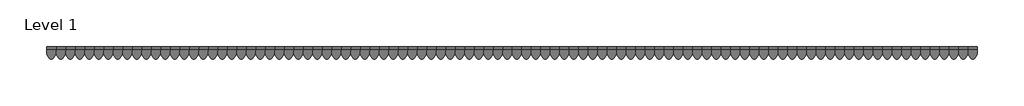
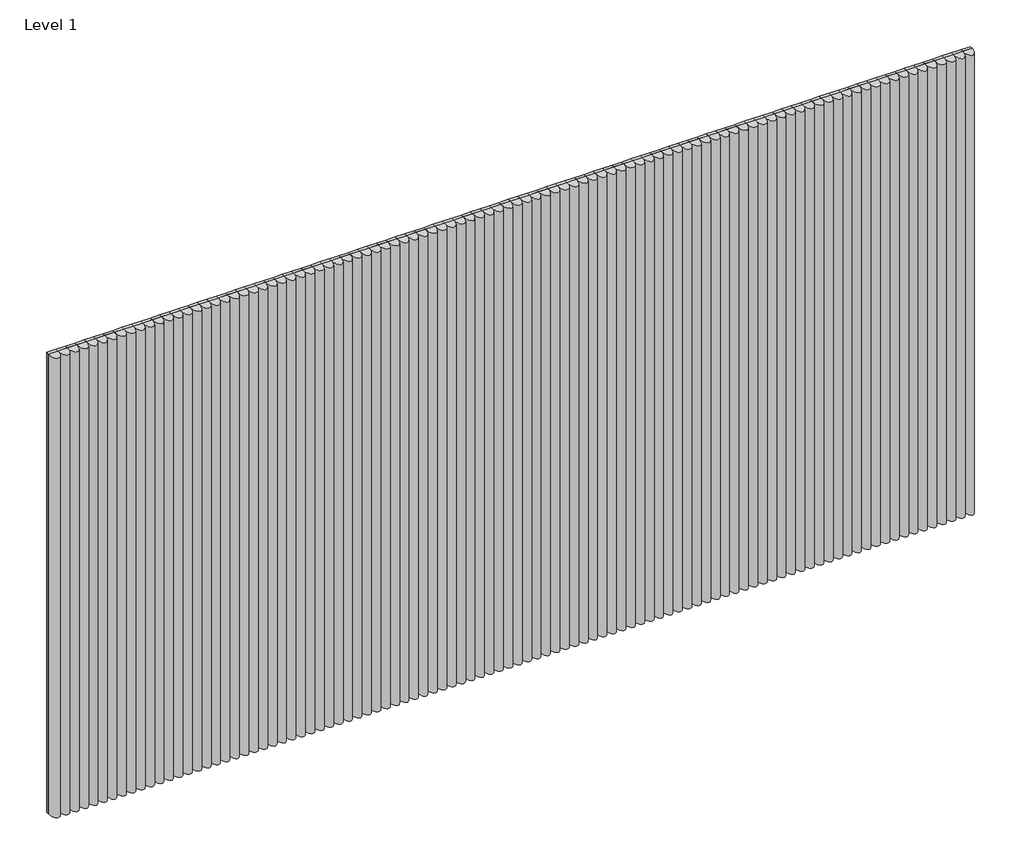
# One storey: 98 proxies.
"""IFC4 building model written with IfcOpenShell, lengths in millimetres."""

import ifcopenshell
import ifcopenshell.guid

model = None  # the IFC model being written
_history = None  # IfcOwnerHistory: only IFC2X3 demands one
_inside = {}  # id of a spatial element -> (the spatial element, [elements in it])
_under = {}  # id of a project, library or spatial element -> (it, [spatial elements below it])
_declared = {}  # id of a project -> (the project, [libraries it declares])
_typed = {}  # id of a type object -> (the type object, [elements of that type])
_made_of = {}  # id of a material, layer set ... -> (it, [elements and type objects made of it])


def new_model(schema):
    """Start an empty IFC model of exactly this schema.

    Asked for "IFC4X3", IfcOpenShell would pick the latest addendum, in which some entities
    have other attributes; the version numbers below select the first issue.
    IFC2X3 requires an IfcOwnerHistory on every rooted entity: one is made here for all.
    """
    global model, _history
    if schema == "IFC4X3":
        model = ifcopenshell.file(schema_version=(4, 3, 0, 0))
    else:
        model = ifcopenshell.file(schema=schema)
    _inside.clear()
    _under.clear()
    _declared.clear()
    _typed.clear()
    _made_of.clear()
    _history = None
    if model.schema == "IFC2X3":
        org = make("IfcOrganization", Name="unknown")
        user = make(
            "IfcPersonAndOrganization",
            ThePerson=make("IfcPerson", FamilyName="unknown"),
            TheOrganization=org,
        )
        app = make(
            "IfcApplication",
            ApplicationDeveloper=org,
            Version="unknown",
            ApplicationFullName="unknown",
            ApplicationIdentifier="unknown",
        )
        _history = make(
            "IfcOwnerHistory",
            OwningUser=user,
            OwningApplication=app,
            ChangeAction="ADDED",
            CreationDate=0,
        )
    return model


def make(cls, **values):
    """One entity of the class cls with the attributes given. An attribute that is None is left unset."""
    return model.create_entity(
        cls, **{name: value for name, value in values.items() if value is not None}
    )


def rooted(cls, **values):
    """An entity with a GlobalId (a new one), such as an element, a storey or a relation."""
    return make(cls, GlobalId=ifcopenshell.guid.new(), OwnerHistory=_history, **values)


def si_unit(unit_type, name, prefix=None):
    """IfcSIUnit, for example si_unit("LENGTHUNIT", "METRE", prefix="MILLI")."""
    return make("IfcSIUnit", UnitType=unit_type, Prefix=prefix, Name=name)


def assignment(units):
    """IfcUnitAssignment: the units of a project."""
    return None if units is None else make("IfcUnitAssignment", Units=units)


def point(xyz):
    """IfcCartesianPoint."""
    return None if xyz is None else make("IfcCartesianPoint", Coordinates=xyz)


def direction(xyz):
    """IfcDirection."""
    return None if xyz is None else make("IfcDirection", DirectionRatios=xyz)


def frame(location, z_axis=None, x_axis=None):
    """IfcAxis2Placement3D, a coordinate frame: its origin and axes. An axis left out is left unset."""
    return make(
        "IfcAxis2Placement3D",
        Location=point(location),
        Axis=direction(z_axis),
        RefDirection=direction(x_axis),
    )


def origin():
    """The frame at (0, 0, 0) with its axes left unset."""
    return frame((0.0, 0.0, 0.0))


def origin_with_axes():
    """The frame at (0, 0, 0) with the z axis (0, 0, 1) and the x axis (1, 0, 0) written out."""
    return frame((0.0, 0.0, 0.0), z_axis=(0.0, 0.0, 1.0), x_axis=(1.0, 0.0, 0.0))


def place(relative_to, where):
    """IfcLocalPlacement: puts the frame where relative to a parent placement (None: the world)."""
    return make(
        "IfcLocalPlacement", PlacementRelTo=relative_to, RelativePlacement=where
    )


def context(
    kind, dimensions, precision=None, world=None, true_north=None, identifier=None
):
    """IfcGeometricRepresentationContext, for example the 3D "Model" context."""
    return make(
        "IfcGeometricRepresentationContext",
        ContextIdentifier=identifier,
        ContextType=kind,
        CoordinateSpaceDimension=dimensions,
        Precision=precision,
        WorldCoordinateSystem=world,
        TrueNorth=true_north,
    )


def project(units=None, contexts=None):
    """IfcProject with its units and contexts."""
    return rooted(
        "IfcProject",
        Name="project",
        RepresentationContexts=contexts,
        UnitsInContext=assignment(units),
    )


def spatial(cls, under=None, at=None, **own):
    """A site, building, storey or space (cls), placed at a placement, below another one or the project."""
    s = rooted(cls, ObjectPlacement=at, **own)
    if under is not None:
        _under.setdefault(under.id(), (under, []))[1].append(s)
    return s


def polyline(points):
    """IfcPolyline through the points."""
    return make("IfcPolyline", Points=[point(p) for p in points])


def ellipse_curve(where, semi_axis1, semi_axis2):
    """IfcEllipse in the frame where."""
    return make(
        "IfcEllipse", Position=where, SemiAxis1=semi_axis1, SemiAxis2=semi_axis2
    )


def trimmed(basis, trim1, trim2, sense, master):
    """IfcTrimmedCurve: the piece of a basis curve between two trims."""
    return make(
        "IfcTrimmedCurve",
        BasisCurve=basis,
        Trim1=trim1,
        Trim2=trim2,
        SenseAgreement=sense,
        MasterRepresentation=master,
    )


def outline(outer, holes=None, kind="AREA"):
    """IfcArbitraryClosedProfileDef: a profile drawn as a closed curve; with holes, ...WithVoids."""
    if holes is None:
        return make("IfcArbitraryClosedProfileDef", ProfileType=kind, OuterCurve=outer)
    return make(
        "IfcArbitraryProfileDefWithVoids",
        ProfileType=kind,
        OuterCurve=outer,
        InnerCurves=holes,
    )


def extrude(swept, where, along, depth):
    """IfcExtrudedAreaSolid: the profile swept, set in the frame where, extruded along a direction by depth."""
    return make(
        "IfcExtrudedAreaSolid",
        SweptArea=swept,
        Position=where,
        ExtrudedDirection=direction(along),
        Depth=depth,
    )


def shape(context_of_items, identifier, shape_type, items):
    """IfcShapeRepresentation: the items that make up one representation, for example the "Body"."""
    return make(
        "IfcShapeRepresentation",
        ContextOfItems=context_of_items,
        RepresentationIdentifier=identifier,
        RepresentationType=shape_type,
        Items=items,
    )


def source(mapping_origin, context_of_items, identifier, shape_type, items):
    """IfcRepresentationMap: a shape defined once, which mapped items show again and again."""
    return make(
        "IfcRepresentationMap",
        MappingOrigin=mapping_origin,
        MappedRepresentation=shape(context_of_items, identifier, shape_type, items),
    )


def transform(
    local_origin,
    x_axis=None,
    y_axis=None,
    z_axis=None,
    scale=None,
    scale2=None,
    scale3=None,
    uniform=True,
):
    """IfcCartesianTransformationOperator3D, or its non-uniform kind. x_axis, y_axis, z_axis: its Axis1, 2, 3."""
    if uniform:
        return make(
            "IfcCartesianTransformationOperator3D",
            Axis1=direction(x_axis),
            Axis2=direction(y_axis),
            LocalOrigin=point(local_origin),
            Scale=scale,
            Axis3=direction(z_axis),
        )
    return make(
        "IfcCartesianTransformationOperator3DnonUniform",
        Axis1=direction(x_axis),
        Axis2=direction(y_axis),
        LocalOrigin=point(local_origin),
        Scale=scale,
        Axis3=direction(z_axis),
        Scale2=scale2,
        Scale3=scale3,
    )


def mapped(mapping_source, mapping_target):
    """IfcMappedItem: shows the shape of a source again, moved by a transform."""
    return make(
        "IfcMappedItem", MappingSource=mapping_source, MappingTarget=mapping_target
    )


def made_of(thing, what):
    """Note that an element or type object is made of a material, layer set ...; save() writes the relation."""
    if what is not None:
        _made_of.setdefault(what.id(), (what, []))[1].append(thing)
    return thing


def element(
    cls,
    number,
    at=None,
    inside=None,
    cuts=None,
    type_object=None,
    material=None,
    context=None,
    identifier="Body",
    shape_type=None,
    held_by="IfcProductDefinitionShape",
    body=None,
    shapes=None,
    **own,
):
    """One element of the class cls, such as IfcWall. Its Tag is "e" and its number.

    at: its placement. inside: the storey or other place that contains it. cuts: it is an
    opening in that element (IfcRelVoidsElement). A single representation is given by context,
    identifier, shape_type and body (its items); several are given by shapes. held_by: the class
    of the entity that holds the representations. save() writes the other relations.
    """
    e = rooted(cls, Tag="e%d" % number, ObjectPlacement=at, **own)
    if body is not None:
        shapes = [shape(context, identifier, shape_type, body)]
    if shapes is not None:
        e.Representation = make(held_by, Representations=shapes)
    if inside is not None:
        _inside.setdefault(inside.id(), (inside, []))[1].append(e)
    if cuts is not None:
        rooted(
            "IfcRelVoidsElement", RelatingBuildingElement=cuts, RelatedOpeningElement=e
        )
    if type_object is not None:
        _typed.setdefault(type_object.id(), (type_object, []))[1].append(e)
    return made_of(e, material)


def aggregate(whole, parts):
    """IfcRelAggregates: a whole, such as a stair, and the parts it consists of."""
    return rooted("IfcRelAggregates", RelatingObject=whole, RelatedObjects=parts)


def save(model, path):
    """Write the relations noted so far, then the file.

    IfcRelAggregates (storeys below a building ...), IfcRelContainedInSpatialStructure (elements
    in a storey), IfcRelDefinesByType, IfcRelAssociatesMaterial and IfcRelDeclares: one each for
    every whole, place, type object, material and project.
    """
    for whole, parts in _under.values():
        aggregate(whole, parts)
    for where, things in _inside.values():
        rooted(
            "IfcRelContainedInSpatialStructure",
            RelatedElements=things,
            RelatingStructure=where,
        )
    for kind, things in _typed.values():
        rooted("IfcRelDefinesByType", RelatedObjects=things, RelatingType=kind)
    for what, things in _made_of.values():
        rooted("IfcRelAssociatesMaterial", RelatedObjects=things, RelatingMaterial=what)
    for by, libraries in _declared.values():
        rooted("IfcRelDeclares", RelatingContext=by, RelatedDefinitions=libraries)
    model.write(path)


def plane_surface(at):
    """IfcPlane: the flat surface through the origin of the frame at, square to its z axis."""
    return make("IfcPlane", Position=at)


def extruded_surface(curve, direction_of_extrusion, depth):
    """IfcSurfaceOfLinearExtrusion: the curve pushed along a direction by depth."""
    return make(
        "IfcSurfaceOfLinearExtrusion",
        SweptCurve=make("IfcArbitraryOpenProfileDef", ProfileType="CURVE", Curve=curve),
        ExtrudedDirection=direction(direction_of_extrusion),
        Depth=depth,
    )


def advanced_brep(points, edges, surfaces, faces):
    """IfcAdvancedBrep: a solid bounded by faces that lie on surfaces and meet in shared edges.

    An edge is (start, end): straight between two places in points (the first is 0);
    or (start, end, curve); or (start, end, curve, False) where it runs against its curve.
    A face is (place in surfaces, loops), or (place, loops, False) where it looks against
    its surface's normal. A loop lists edges by number (the first is 1), with a minus sign
    where the edge is run from its end to its start. The first loop is the outer one.
    """
    corners = [point(p) for p in points]
    vertices = [make("IfcVertexPoint", VertexGeometry=c) for c in corners]
    made = []
    for start, end, *more in edges:
        made.append(
            make(
                "IfcEdgeCurve",
                EdgeStart=vertices[start],
                EdgeEnd=vertices[end],
                EdgeGeometry=more[0] if more else make("IfcPolyline", Points=[corners[start], corners[end]]),
                SameSense=more[1] if len(more) > 1 else True,
            )
        )
    hull = []
    for where, loops, *sense in faces:
        bounds = []
        for j, loop in enumerate(loops):
            ring = [make("IfcOrientedEdge", EdgeElement=made[abs(k) - 1], Orientation=k > 0) for k in loop]
            bounds.append(
                make(
                    "IfcFaceOuterBound" if j == 0 else "IfcFaceBound",
                    Bound=make("IfcEdgeLoop", EdgeList=ring),
                    Orientation=True,
                )
            )
        hull.append(make("IfcAdvancedFace", Bounds=bounds, FaceSurface=surfaces[where], SameSense=sense[0] if sense else True))
    return make("IfcAdvancedBrep", Outer=make("IfcClosedShell", CfsFaces=hull))


def specialty_equipment_0e2ca00c(model_context):
    return source(origin(), model_context, "Body", "SolidModel", [
        advanced_brep(
        [(28.575, 2946.4, 19.05), (-28.575, 2946.4, 19.05), (28.575, 0.0, 19.05), (-28.575, 0.0, 19.05)],
        [
            (0, 1),
            (1, 0, ellipse_curve(frame((0.0, 2946.4, 19.05), z_axis=(0.0, 1.0, 0.0), x_axis=(-1.0, 0.0, 0.0)), 28.575, 57.15)),
            (2, 3, ellipse_curve(frame((0.0, 0.0, 19.05), z_axis=(0.0, -1.0, 0.0), x_axis=(-1.0, 0.0, 0.0)), 28.575, 57.15)),
            (3, 2),
            (0, 2),
            (3, 1),
        ],
        [
            plane_surface(frame((0.0, 2946.4, 0.0), z_axis=(0.0, 1.0, 0.0), x_axis=(0.0, 0.0, 1.0))),
            plane_surface(frame((0.0, 0.0, 0.0), z_axis=(0.0, -1.0, 0.0), x_axis=(0.0, 0.0, 1.0))),
            plane_surface(frame((28.575, 2946.4, 19.05), z_axis=(0.0, 0.0, -1.0), x_axis=(0.0, -1.0, 0.0))),
            extruded_surface(trimmed(ellipse_curve(frame((0.0, 0.0, 19.05), z_axis=(0.0, 1.0, 0.0), x_axis=(-1.0, 0.0, 0.0)), 28.575, 57.15), [point((-28.575, 0.0, 19.05))], [point((28.575, 0.0, 19.05))], True, "CARTESIAN"), (0.0, 2946.4, 0.0), 2946.4),
        ],
        [
            (0, [[1, 2]]),
            (1, [[3, 4]]),
            (2, [[-1, 5, -4, 6]]),
            (3, [[-2, -6, -3, -5]]),
        ],
    ),
        extrude(outline(polyline([(-28.575, 2946.4), (28.575, 2946.4), (28.575, 0.0), (-28.575, 0.0), (-28.575, 2946.4)])), origin_with_axes(), (0.0, 0.0, 1.0), 19.05),
    ])


model = new_model("IFC4")

# Units and contexts
model_context = context("Model", 3, world=origin())
ifc_project = project(units=[si_unit("LENGTHUNIT", "METRE", prefix="MILLI")], contexts=[model_context])

# Site, building, storey
site = spatial("IfcSite", under=ifc_project)
building = spatial("IfcBuilding", under=site)
storey = spatial("IfcBuildingStorey", under=building, Name="Level 1", Elevation=0.0)

# Proxies
placement = place(None, origin())
specialty_equipment_shape = specialty_equipment_0e2ca00c(model_context)
element("IfcBuildingElementProxy", 1, Name="Spinneybeck_ARO Plank 1 : B - 2 1/4 in (5.7 cm)", ObjectType="Spinneybeck_ARO Plank 1 : B - 2 1/4 in (5.7 cm)", at=placement, inside=storey, context=model_context, shape_type="MappedRepresentation", body=[
    mapped(specialty_equipment_shape, transform((-18925.9881386, 525.5178844, -8.8724664), x_axis=(1.0, 0.0, 0.0), y_axis=(0.0, 0.0, 1.0), z_axis=(0.0, -1.0, 0.0))),
])
element("IfcBuildingElementProxy", 2, Name="Spinneybeck_ARO Plank 1 : B - 2 1/4 in (5.7 cm)", ObjectType="Spinneybeck_ARO Plank 1 : B - 2 1/4 in (5.7 cm)", at=placement, inside=storey, context=model_context, shape_type="MappedRepresentation", body=[
    mapped(specialty_equipment_shape, transform((-18868.8381386, 525.5178844, -8.8724664), x_axis=(1.0, 0.0, 0.0), y_axis=(0.0, 0.0, 1.0), z_axis=(0.0, -1.0, 0.0))),
])
element("IfcBuildingElementProxy", 3, Name="Spinneybeck_ARO Plank 1 : B - 2 1/4 in (5.7 cm)", ObjectType="Spinneybeck_ARO Plank 1 : B - 2 1/4 in (5.7 cm)", at=placement, inside=storey, context=model_context, shape_type="MappedRepresentation", body=[
    mapped(specialty_equipment_shape, transform((-18811.6881386, 525.5178844, -8.8724664), x_axis=(1.0, 0.0, 0.0), y_axis=(0.0, 0.0, 1.0), z_axis=(0.0, -1.0, 0.0))),
])
element("IfcBuildingElementProxy", 4, Name="Spinneybeck_ARO Plank 1 : B - 2 1/4 in (5.7 cm)", ObjectType="Spinneybeck_ARO Plank 1 : B - 2 1/4 in (5.7 cm)", at=placement, inside=storey, context=model_context, shape_type="MappedRepresentation", body=[
    mapped(specialty_equipment_shape, transform((-18754.5381386, 525.5178844, -8.8724664), x_axis=(1.0, 0.0, 0.0), y_axis=(0.0, 0.0, 1.0), z_axis=(0.0, -1.0, 0.0))),
])
element("IfcBuildingElementProxy", 5, Name="Spinneybeck_ARO Plank 1 : B - 2 1/4 in (5.7 cm)", ObjectType="Spinneybeck_ARO Plank 1 : B - 2 1/4 in (5.7 cm)", at=placement, inside=storey, context=model_context, shape_type="MappedRepresentation", body=[
    mapped(specialty_equipment_shape, transform((-18697.3881386, 525.5178844, -8.8724664), x_axis=(1.0, 0.0, 0.0), y_axis=(0.0, 0.0, 1.0), z_axis=(0.0, -1.0, 0.0))),
])
element("IfcBuildingElementProxy", 6, Name="Spinneybeck_ARO Plank 1 : B - 2 1/4 in (5.7 cm)", ObjectType="Spinneybeck_ARO Plank 1 : B - 2 1/4 in (5.7 cm)", at=placement, inside=storey, context=model_context, shape_type="MappedRepresentation", body=[
    mapped(specialty_equipment_shape, transform((-18640.2381386, 525.5178844, -8.8724664), x_axis=(1.0, 0.0, 0.0), y_axis=(0.0, 0.0, 1.0), z_axis=(0.0, -1.0, 0.0))),
])
element("IfcBuildingElementProxy", 7, Name="Spinneybeck_ARO Plank 1 : B - 2 1/4 in (5.7 cm)", ObjectType="Spinneybeck_ARO Plank 1 : B - 2 1/4 in (5.7 cm)", at=placement, inside=storey, context=model_context, shape_type="MappedRepresentation", body=[
    mapped(specialty_equipment_shape, transform((-18583.0881386, 525.5178844, -8.8724664), x_axis=(1.0, 0.0, 0.0), y_axis=(0.0, 0.0, 1.0), z_axis=(0.0, -1.0, 0.0))),
])
element("IfcBuildingElementProxy", 8, Name="Spinneybeck_ARO Plank 1 : B - 2 1/4 in (5.7 cm)", ObjectType="Spinneybeck_ARO Plank 1 : B - 2 1/4 in (5.7 cm)", at=placement, inside=storey, context=model_context, shape_type="MappedRepresentation", body=[
    mapped(specialty_equipment_shape, transform((-18525.9381386, 525.5178844, -8.8724664), x_axis=(1.0, 0.0, 0.0), y_axis=(0.0, 0.0, 1.0), z_axis=(0.0, -1.0, 0.0))),
])
element("IfcBuildingElementProxy", 9, Name="Spinneybeck_ARO Plank 1 : B - 2 1/4 in (5.7 cm)", ObjectType="Spinneybeck_ARO Plank 1 : B - 2 1/4 in (5.7 cm)", at=placement, inside=storey, context=model_context, shape_type="MappedRepresentation", body=[
    mapped(specialty_equipment_shape, transform((-18468.7881386, 525.5178844, -8.8724664), x_axis=(1.0, 0.0, 0.0), y_axis=(0.0, 0.0, 1.0), z_axis=(0.0, -1.0, 0.0))),
])
element("IfcBuildingElementProxy", 10, Name="Spinneybeck_ARO Plank 1 : B - 2 1/4 in (5.7 cm)", ObjectType="Spinneybeck_ARO Plank 1 : B - 2 1/4 in (5.7 cm)", at=placement, inside=storey, context=model_context, shape_type="MappedRepresentation", body=[
    mapped(specialty_equipment_shape, transform((-18411.6381386, 525.5178844, -8.8724664), x_axis=(1.0, 0.0, 0.0), y_axis=(0.0, 0.0, 1.0), z_axis=(0.0, -1.0, 0.0))),
])
element("IfcBuildingElementProxy", 11, Name="Spinneybeck_ARO Plank 1 : B - 2 1/4 in (5.7 cm)", ObjectType="Spinneybeck_ARO Plank 1 : B - 2 1/4 in (5.7 cm)", at=placement, inside=storey, context=model_context, shape_type="MappedRepresentation", body=[
    mapped(specialty_equipment_shape, transform((-18354.4881386, 525.5178844, -8.8724664), x_axis=(1.0, 0.0, 0.0), y_axis=(0.0, 0.0, 1.0), z_axis=(0.0, -1.0, 0.0))),
])
element("IfcBuildingElementProxy", 12, Name="Spinneybeck_ARO Plank 1 : B - 2 1/4 in (5.7 cm)", ObjectType="Spinneybeck_ARO Plank 1 : B - 2 1/4 in (5.7 cm)", at=placement, inside=storey, context=model_context, shape_type="MappedRepresentation", body=[
    mapped(specialty_equipment_shape, transform((-18297.3381386, 525.5178844, -8.8724664), x_axis=(1.0, 0.0, 0.0), y_axis=(0.0, 0.0, 1.0), z_axis=(0.0, -1.0, 0.0))),
])
element("IfcBuildingElementProxy", 13, Name="Spinneybeck_ARO Plank 1 : B - 2 1/4 in (5.7 cm)", ObjectType="Spinneybeck_ARO Plank 1 : B - 2 1/4 in (5.7 cm)", at=placement, inside=storey, context=model_context, shape_type="MappedRepresentation", body=[
    mapped(specialty_equipment_shape, transform((-18240.1881386, 525.5178844, -8.8724664), x_axis=(1.0, 0.0, 0.0), y_axis=(0.0, 0.0, 1.0), z_axis=(0.0, -1.0, 0.0))),
])
element("IfcBuildingElementProxy", 14, Name="Spinneybeck_ARO Plank 1 : B - 2 1/4 in (5.7 cm)", ObjectType="Spinneybeck_ARO Plank 1 : B - 2 1/4 in (5.7 cm)", at=placement, inside=storey, context=model_context, shape_type="MappedRepresentation", body=[
    mapped(specialty_equipment_shape, transform((-18183.0381386, 525.5178844, -8.8724664), x_axis=(1.0, 0.0, 0.0), y_axis=(0.0, 0.0, 1.0), z_axis=(0.0, -1.0, 0.0))),
])
element("IfcBuildingElementProxy", 15, Name="Spinneybeck_ARO Plank 1 : B - 2 1/4 in (5.7 cm)", ObjectType="Spinneybeck_ARO Plank 1 : B - 2 1/4 in (5.7 cm)", at=placement, inside=storey, context=model_context, shape_type="MappedRepresentation", body=[
    mapped(specialty_equipment_shape, transform((-18125.8881386, 525.5178844, -8.8724664), x_axis=(1.0, 0.0, 0.0), y_axis=(0.0, 0.0, 1.0), z_axis=(0.0, -1.0, 0.0))),
])
element("IfcBuildingElementProxy", 16, Name="Spinneybeck_ARO Plank 1 : B - 2 1/4 in (5.7 cm)", ObjectType="Spinneybeck_ARO Plank 1 : B - 2 1/4 in (5.7 cm)", at=placement, inside=storey, context=model_context, shape_type="MappedRepresentation", body=[
    mapped(specialty_equipment_shape, transform((-18068.7381386, 525.5178844, -8.8724664), x_axis=(1.0, 0.0, 0.0), y_axis=(0.0, 0.0, 1.0), z_axis=(0.0, -1.0, 0.0))),
])
element("IfcBuildingElementProxy", 17, Name="Spinneybeck_ARO Plank 1 : B - 2 1/4 in (5.7 cm)", ObjectType="Spinneybeck_ARO Plank 1 : B - 2 1/4 in (5.7 cm)", at=placement, inside=storey, context=model_context, shape_type="MappedRepresentation", body=[
    mapped(specialty_equipment_shape, transform((-18011.5881386, 525.5178844, -8.8724664), x_axis=(1.0, 0.0, 0.0), y_axis=(0.0, 0.0, 1.0), z_axis=(0.0, -1.0, 0.0))),
])
element("IfcBuildingElementProxy", 18, Name="Spinneybeck_ARO Plank 1 : B - 2 1/4 in (5.7 cm)", ObjectType="Spinneybeck_ARO Plank 1 : B - 2 1/4 in (5.7 cm)", at=placement, inside=storey, context=model_context, shape_type="MappedRepresentation", body=[
    mapped(specialty_equipment_shape, transform((-17954.4381386, 525.5178844, -8.8724664), x_axis=(1.0, 0.0, 0.0), y_axis=(0.0, 0.0, 1.0), z_axis=(0.0, -1.0, 0.0))),
])
element("IfcBuildingElementProxy", 19, Name="Spinneybeck_ARO Plank 1 : B - 2 1/4 in (5.7 cm)", ObjectType="Spinneybeck_ARO Plank 1 : B - 2 1/4 in (5.7 cm)", at=placement, inside=storey, context=model_context, shape_type="MappedRepresentation", body=[
    mapped(specialty_equipment_shape, transform((-17897.2881386, 525.5178844, -8.8724664), x_axis=(1.0, 0.0, 0.0), y_axis=(0.0, 0.0, 1.0), z_axis=(0.0, -1.0, 0.0))),
])
element("IfcBuildingElementProxy", 20, Name="Spinneybeck_ARO Plank 1 : B - 2 1/4 in (5.7 cm)", ObjectType="Spinneybeck_ARO Plank 1 : B - 2 1/4 in (5.7 cm)", at=placement, inside=storey, context=model_context, shape_type="MappedRepresentation", body=[
    mapped(specialty_equipment_shape, transform((-17840.1381386, 525.5178844, -8.8724664), x_axis=(1.0, 0.0, 0.0), y_axis=(0.0, 0.0, 1.0), z_axis=(0.0, -1.0, 0.0))),
])
element("IfcBuildingElementProxy", 21, Name="Spinneybeck_ARO Plank 1 : B - 2 1/4 in (5.7 cm)", ObjectType="Spinneybeck_ARO Plank 1 : B - 2 1/4 in (5.7 cm)", at=placement, inside=storey, context=model_context, shape_type="MappedRepresentation", body=[
    mapped(specialty_equipment_shape, transform((-17782.9881386, 525.5178844, -8.8724664), x_axis=(1.0, 0.0, 0.0), y_axis=(0.0, 0.0, 1.0), z_axis=(0.0, -1.0, 0.0))),
])
element("IfcBuildingElementProxy", 22, Name="Spinneybeck_ARO Plank 1 : B - 2 1/4 in (5.7 cm)", ObjectType="Spinneybeck_ARO Plank 1 : B - 2 1/4 in (5.7 cm)", at=placement, inside=storey, context=model_context, shape_type="MappedRepresentation", body=[
    mapped(specialty_equipment_shape, transform((-17725.8381386, 525.5178844, -8.8724664), x_axis=(1.0, 0.0, 0.0), y_axis=(0.0, 0.0, 1.0), z_axis=(0.0, -1.0, 0.0))),
])
element("IfcBuildingElementProxy", 23, Name="Spinneybeck_ARO Plank 1 : B - 2 1/4 in (5.7 cm)", ObjectType="Spinneybeck_ARO Plank 1 : B - 2 1/4 in (5.7 cm)", at=placement, inside=storey, context=model_context, shape_type="MappedRepresentation", body=[
    mapped(specialty_equipment_shape, transform((-17668.6881386, 525.5178844, -8.8724664), x_axis=(1.0, 0.0, 0.0), y_axis=(0.0, 0.0, 1.0), z_axis=(0.0, -1.0, 0.0))),
])
element("IfcBuildingElementProxy", 24, Name="Spinneybeck_ARO Plank 1 : B - 2 1/4 in (5.7 cm)", ObjectType="Spinneybeck_ARO Plank 1 : B - 2 1/4 in (5.7 cm)", at=placement, inside=storey, context=model_context, shape_type="MappedRepresentation", body=[
    mapped(specialty_equipment_shape, transform((-17611.5381386, 525.5178844, -8.8724664), x_axis=(1.0, 0.0, 0.0), y_axis=(0.0, 0.0, 1.0), z_axis=(0.0, -1.0, 0.0))),
])
element("IfcBuildingElementProxy", 25, Name="Spinneybeck_ARO Plank 1 : B - 2 1/4 in (5.7 cm)", ObjectType="Spinneybeck_ARO Plank 1 : B - 2 1/4 in (5.7 cm)", at=placement, inside=storey, context=model_context, shape_type="MappedRepresentation", body=[
    mapped(specialty_equipment_shape, transform((-17554.3881386, 525.5178844, -8.8724664), x_axis=(1.0, 0.0, 0.0), y_axis=(0.0, 0.0, 1.0), z_axis=(0.0, -1.0, 0.0))),
])
element("IfcBuildingElementProxy", 26, Name="Spinneybeck_ARO Plank 1 : B - 2 1/4 in (5.7 cm)", ObjectType="Spinneybeck_ARO Plank 1 : B - 2 1/4 in (5.7 cm)", at=placement, inside=storey, context=model_context, shape_type="MappedRepresentation", body=[
    mapped(specialty_equipment_shape, transform((-17497.2381386, 525.5178844, -8.8724664), x_axis=(1.0, 0.0, 0.0), y_axis=(0.0, 0.0, 1.0), z_axis=(0.0, -1.0, 0.0))),
])
element("IfcBuildingElementProxy", 27, Name="Spinneybeck_ARO Plank 1 : B - 2 1/4 in (5.7 cm)", ObjectType="Spinneybeck_ARO Plank 1 : B - 2 1/4 in (5.7 cm)", at=placement, inside=storey, context=model_context, shape_type="MappedRepresentation", body=[
    mapped(specialty_equipment_shape, transform((-17440.0881386, 525.5178844, -8.8724664), x_axis=(1.0, 0.0, 0.0), y_axis=(0.0, 0.0, 1.0), z_axis=(0.0, -1.0, 0.0))),
])
element("IfcBuildingElementProxy", 28, Name="Spinneybeck_ARO Plank 1 : B - 2 1/4 in (5.7 cm)", ObjectType="Spinneybeck_ARO Plank 1 : B - 2 1/4 in (5.7 cm)", at=placement, inside=storey, context=model_context, shape_type="MappedRepresentation", body=[
    mapped(specialty_equipment_shape, transform((-17382.9381386, 525.5178844, -8.8724664), x_axis=(1.0, 0.0, 0.0), y_axis=(0.0, 0.0, 1.0), z_axis=(0.0, -1.0, 0.0))),
])
element("IfcBuildingElementProxy", 29, Name="Spinneybeck_ARO Plank 1 : B - 2 1/4 in (5.7 cm)", ObjectType="Spinneybeck_ARO Plank 1 : B - 2 1/4 in (5.7 cm)", at=placement, inside=storey, context=model_context, shape_type="MappedRepresentation", body=[
    mapped(specialty_equipment_shape, transform((-17325.7881386, 525.5178844, -8.8724664), x_axis=(1.0, 0.0, 0.0), y_axis=(0.0, 0.0, 1.0), z_axis=(0.0, -1.0, 0.0))),
])
element("IfcBuildingElementProxy", 30, Name="Spinneybeck_ARO Plank 1 : B - 2 1/4 in (5.7 cm)", ObjectType="Spinneybeck_ARO Plank 1 : B - 2 1/4 in (5.7 cm)", at=placement, inside=storey, context=model_context, shape_type="MappedRepresentation", body=[
    mapped(specialty_equipment_shape, transform((-17268.6381386, 525.5178844, -8.8724664), x_axis=(1.0, 0.0, 0.0), y_axis=(0.0, 0.0, 1.0), z_axis=(0.0, -1.0, 0.0))),
])
element("IfcBuildingElementProxy", 31, Name="Spinneybeck_ARO Plank 1 : B - 2 1/4 in (5.7 cm)", ObjectType="Spinneybeck_ARO Plank 1 : B - 2 1/4 in (5.7 cm)", at=placement, inside=storey, context=model_context, shape_type="MappedRepresentation", body=[
    mapped(specialty_equipment_shape, transform((-17211.4881386, 525.5178844, -8.8724664), x_axis=(1.0, 0.0, 0.0), y_axis=(0.0, 0.0, 1.0), z_axis=(0.0, -1.0, 0.0))),
])
element("IfcBuildingElementProxy", 32, Name="Spinneybeck_ARO Plank 1 : B - 2 1/4 in (5.7 cm)", ObjectType="Spinneybeck_ARO Plank 1 : B - 2 1/4 in (5.7 cm)", at=placement, inside=storey, context=model_context, shape_type="MappedRepresentation", body=[
    mapped(specialty_equipment_shape, transform((-17154.3381386, 525.5178844, -8.8724664), x_axis=(1.0, 0.0, 0.0), y_axis=(0.0, 0.0, 1.0), z_axis=(0.0, -1.0, 0.0))),
])
element("IfcBuildingElementProxy", 33, Name="Spinneybeck_ARO Plank 1 : B - 2 1/4 in (5.7 cm)", ObjectType="Spinneybeck_ARO Plank 1 : B - 2 1/4 in (5.7 cm)", at=placement, inside=storey, context=model_context, shape_type="MappedRepresentation", body=[
    mapped(specialty_equipment_shape, transform((-17097.1881386, 525.5178844, -8.8724664), x_axis=(1.0, 0.0, 0.0), y_axis=(0.0, 0.0, 1.0), z_axis=(0.0, -1.0, 0.0))),
])
element("IfcBuildingElementProxy", 34, Name="Spinneybeck_ARO Plank 1 : B - 2 1/4 in (5.7 cm)", ObjectType="Spinneybeck_ARO Plank 1 : B - 2 1/4 in (5.7 cm)", at=placement, inside=storey, context=model_context, shape_type="MappedRepresentation", body=[
    mapped(specialty_equipment_shape, transform((-17040.0381386, 525.5178844, -8.8724664), x_axis=(1.0, 0.0, 0.0), y_axis=(0.0, 0.0, 1.0), z_axis=(0.0, -1.0, 0.0))),
])
element("IfcBuildingElementProxy", 35, Name="Spinneybeck_ARO Plank 1 : B - 2 1/4 in (5.7 cm)", ObjectType="Spinneybeck_ARO Plank 1 : B - 2 1/4 in (5.7 cm)", at=placement, inside=storey, context=model_context, shape_type="MappedRepresentation", body=[
    mapped(specialty_equipment_shape, transform((-16982.8881386, 525.5178844, -8.8724664), x_axis=(1.0, 0.0, 0.0), y_axis=(0.0, 0.0, 1.0), z_axis=(0.0, -1.0, 0.0))),
])
element("IfcBuildingElementProxy", 36, Name="Spinneybeck_ARO Plank 1 : B - 2 1/4 in (5.7 cm)", ObjectType="Spinneybeck_ARO Plank 1 : B - 2 1/4 in (5.7 cm)", at=placement, inside=storey, context=model_context, shape_type="MappedRepresentation", body=[
    mapped(specialty_equipment_shape, transform((-16925.7381386, 525.5178844, -8.8724664), x_axis=(1.0, 0.0, 0.0), y_axis=(0.0, 0.0, 1.0), z_axis=(0.0, -1.0, 0.0))),
])
element("IfcBuildingElementProxy", 37, Name="Spinneybeck_ARO Plank 1 : B - 2 1/4 in (5.7 cm)", ObjectType="Spinneybeck_ARO Plank 1 : B - 2 1/4 in (5.7 cm)", at=placement, inside=storey, context=model_context, shape_type="MappedRepresentation", body=[
    mapped(specialty_equipment_shape, transform((-16868.5881386, 525.5178844, -8.8724664), x_axis=(1.0, 0.0, 0.0), y_axis=(0.0, 0.0, 1.0), z_axis=(0.0, -1.0, 0.0))),
])
element("IfcBuildingElementProxy", 38, Name="Spinneybeck_ARO Plank 1 : B - 2 1/4 in (5.7 cm)", ObjectType="Spinneybeck_ARO Plank 1 : B - 2 1/4 in (5.7 cm)", at=placement, inside=storey, context=model_context, shape_type="MappedRepresentation", body=[
    mapped(specialty_equipment_shape, transform((-16811.4381386, 525.5178844, -8.8724664), x_axis=(1.0, 0.0, 0.0), y_axis=(0.0, 0.0, 1.0), z_axis=(0.0, -1.0, 0.0))),
])
element("IfcBuildingElementProxy", 39, Name="Spinneybeck_ARO Plank 1 : B - 2 1/4 in (5.7 cm)", ObjectType="Spinneybeck_ARO Plank 1 : B - 2 1/4 in (5.7 cm)", at=placement, inside=storey, context=model_context, shape_type="MappedRepresentation", body=[
    mapped(specialty_equipment_shape, transform((-16754.2881386, 525.5178844, -8.8724664), x_axis=(1.0, 0.0, 0.0), y_axis=(0.0, 0.0, 1.0), z_axis=(0.0, -1.0, 0.0))),
])
element("IfcBuildingElementProxy", 40, Name="Spinneybeck_ARO Plank 1 : B - 2 1/4 in (5.7 cm)", ObjectType="Spinneybeck_ARO Plank 1 : B - 2 1/4 in (5.7 cm)", at=placement, inside=storey, context=model_context, shape_type="MappedRepresentation", body=[
    mapped(specialty_equipment_shape, transform((-16697.1381386, 525.5178844, -8.8724664), x_axis=(1.0, 0.0, 0.0), y_axis=(0.0, 0.0, 1.0), z_axis=(0.0, -1.0, 0.0))),
])
element("IfcBuildingElementProxy", 41, Name="Spinneybeck_ARO Plank 1 : B - 2 1/4 in (5.7 cm)", ObjectType="Spinneybeck_ARO Plank 1 : B - 2 1/4 in (5.7 cm)", at=placement, inside=storey, context=model_context, shape_type="MappedRepresentation", body=[
    mapped(specialty_equipment_shape, transform((-16639.9881386, 525.5178844, -8.8724664), x_axis=(1.0, 0.0, 0.0), y_axis=(0.0, 0.0, 1.0), z_axis=(0.0, -1.0, 0.0))),
])
element("IfcBuildingElementProxy", 42, Name="Spinneybeck_ARO Plank 1 : B - 2 1/4 in (5.7 cm)", ObjectType="Spinneybeck_ARO Plank 1 : B - 2 1/4 in (5.7 cm)", at=placement, inside=storey, context=model_context, shape_type="MappedRepresentation", body=[
    mapped(specialty_equipment_shape, transform((-16582.8381386, 525.5178844, -8.8724664), x_axis=(1.0, 0.0, 0.0), y_axis=(0.0, 0.0, 1.0), z_axis=(0.0, -1.0, 0.0))),
])
element("IfcBuildingElementProxy", 43, Name="Spinneybeck_ARO Plank 1 : B - 2 1/4 in (5.7 cm)", ObjectType="Spinneybeck_ARO Plank 1 : B - 2 1/4 in (5.7 cm)", at=placement, inside=storey, context=model_context, shape_type="MappedRepresentation", body=[
    mapped(specialty_equipment_shape, transform((-16525.6881386, 525.5178844, -8.8724664), x_axis=(1.0, 0.0, 0.0), y_axis=(0.0, 0.0, 1.0), z_axis=(0.0, -1.0, 0.0))),
])
element("IfcBuildingElementProxy", 44, Name="Spinneybeck_ARO Plank 1 : B - 2 1/4 in (5.7 cm)", ObjectType="Spinneybeck_ARO Plank 1 : B - 2 1/4 in (5.7 cm)", at=placement, inside=storey, context=model_context, shape_type="MappedRepresentation", body=[
    mapped(specialty_equipment_shape, transform((-16468.5381386, 525.5178844, -8.8724664), x_axis=(1.0, 0.0, 0.0), y_axis=(0.0, 0.0, 1.0), z_axis=(0.0, -1.0, 0.0))),
])
element("IfcBuildingElementProxy", 45, Name="Spinneybeck_ARO Plank 1 : B - 2 1/4 in (5.7 cm)", ObjectType="Spinneybeck_ARO Plank 1 : B - 2 1/4 in (5.7 cm)", at=placement, inside=storey, context=model_context, shape_type="MappedRepresentation", body=[
    mapped(specialty_equipment_shape, transform((-16411.3881386, 525.5178844, -8.8724664), x_axis=(1.0, 0.0, 0.0), y_axis=(0.0, 0.0, 1.0), z_axis=(0.0, -1.0, 0.0))),
])
element("IfcBuildingElementProxy", 46, Name="Spinneybeck_ARO Plank 1 : B - 2 1/4 in (5.7 cm)", ObjectType="Spinneybeck_ARO Plank 1 : B - 2 1/4 in (5.7 cm)", at=placement, inside=storey, context=model_context, shape_type="MappedRepresentation", body=[
    mapped(specialty_equipment_shape, transform((-16354.2381386, 525.5178844, -8.8724664), x_axis=(1.0, 0.0, 0.0), y_axis=(0.0, 0.0, 1.0), z_axis=(0.0, -1.0, 0.0))),
])
element("IfcBuildingElementProxy", 47, Name="Spinneybeck_ARO Plank 1 : B - 2 1/4 in (5.7 cm)", ObjectType="Spinneybeck_ARO Plank 1 : B - 2 1/4 in (5.7 cm)", at=placement, inside=storey, context=model_context, shape_type="MappedRepresentation", body=[
    mapped(specialty_equipment_shape, transform((-16297.0881386, 525.5178844, -8.8724664), x_axis=(1.0, 0.0, 0.0), y_axis=(0.0, 0.0, 1.0), z_axis=(0.0, -1.0, 0.0))),
])
element("IfcBuildingElementProxy", 48, Name="Spinneybeck_ARO Plank 1 : B - 2 1/4 in (5.7 cm)", ObjectType="Spinneybeck_ARO Plank 1 : B - 2 1/4 in (5.7 cm)", at=placement, inside=storey, context=model_context, shape_type="MappedRepresentation", body=[
    mapped(specialty_equipment_shape, transform((-16239.9381386, 525.5178844, -8.8724664), x_axis=(1.0, 0.0, 0.0), y_axis=(0.0, 0.0, 1.0), z_axis=(0.0, -1.0, 0.0))),
])
element("IfcBuildingElementProxy", 49, Name="Spinneybeck_ARO Plank 1 : B - 2 1/4 in (5.7 cm)", ObjectType="Spinneybeck_ARO Plank 1 : B - 2 1/4 in (5.7 cm)", at=placement, inside=storey, context=model_context, shape_type="MappedRepresentation", body=[
    mapped(specialty_equipment_shape, transform((-16182.7881386, 525.5178844, -8.8724664), x_axis=(1.0, 0.0, 0.0), y_axis=(0.0, 0.0, 1.0), z_axis=(0.0, -1.0, 0.0))),
])
element("IfcBuildingElementProxy", 50, Name="Spinneybeck_ARO Plank 1 : B - 2 1/4 in (5.7 cm)", ObjectType="Spinneybeck_ARO Plank 1 : B - 2 1/4 in (5.7 cm)", at=placement, inside=storey, context=model_context, shape_type="MappedRepresentation", body=[
    mapped(specialty_equipment_shape, transform((-16125.6381386, 525.5178844, -8.8724664), x_axis=(1.0, 0.0, 0.0), y_axis=(0.0, 0.0, 1.0), z_axis=(0.0, -1.0, 0.0))),
])
element("IfcBuildingElementProxy", 51, Name="Spinneybeck_ARO Plank 1 : B - 2 1/4 in (5.7 cm)", ObjectType="Spinneybeck_ARO Plank 1 : B - 2 1/4 in (5.7 cm)", at=placement, inside=storey, context=model_context, shape_type="MappedRepresentation", body=[
    mapped(specialty_equipment_shape, transform((-16068.4881386, 525.5178844, -8.8724664), x_axis=(1.0, 0.0, 0.0), y_axis=(0.0, 0.0, 1.0), z_axis=(0.0, -1.0, 0.0))),
])
element("IfcBuildingElementProxy", 52, Name="Spinneybeck_ARO Plank 1 : B - 2 1/4 in (5.7 cm)", ObjectType="Spinneybeck_ARO Plank 1 : B - 2 1/4 in (5.7 cm)", at=placement, inside=storey, context=model_context, shape_type="MappedRepresentation", body=[
    mapped(specialty_equipment_shape, transform((-16011.3381386, 525.5178844, -8.8724664), x_axis=(1.0, 0.0, 0.0), y_axis=(0.0, 0.0, 1.0), z_axis=(0.0, -1.0, 0.0))),
])
element("IfcBuildingElementProxy", 53, Name="Spinneybeck_ARO Plank 1 : B - 2 1/4 in (5.7 cm)", ObjectType="Spinneybeck_ARO Plank 1 : B - 2 1/4 in (5.7 cm)", at=placement, inside=storey, context=model_context, shape_type="MappedRepresentation", body=[
    mapped(specialty_equipment_shape, transform((-15954.1881386, 525.5178844, -8.8724664), x_axis=(1.0, 0.0, 0.0), y_axis=(0.0, 0.0, 1.0), z_axis=(0.0, -1.0, 0.0))),
])
element("IfcBuildingElementProxy", 54, Name="Spinneybeck_ARO Plank 1 : B - 2 1/4 in (5.7 cm)", ObjectType="Spinneybeck_ARO Plank 1 : B - 2 1/4 in (5.7 cm)", at=placement, inside=storey, context=model_context, shape_type="MappedRepresentation", body=[
    mapped(specialty_equipment_shape, transform((-15897.0381386, 525.5178844, -8.8724664), x_axis=(1.0, 0.0, 0.0), y_axis=(0.0, 0.0, 1.0), z_axis=(0.0, -1.0, 0.0))),
])
element("IfcBuildingElementProxy", 55, Name="Spinneybeck_ARO Plank 1 : B - 2 1/4 in (5.7 cm)", ObjectType="Spinneybeck_ARO Plank 1 : B - 2 1/4 in (5.7 cm)", at=placement, inside=storey, context=model_context, shape_type="MappedRepresentation", body=[
    mapped(specialty_equipment_shape, transform((-15839.8881386, 525.5178844, -8.8724664), x_axis=(1.0, 0.0, 0.0), y_axis=(0.0, 0.0, 1.0), z_axis=(0.0, -1.0, 0.0))),
])
element("IfcBuildingElementProxy", 56, Name="Spinneybeck_ARO Plank 1 : B - 2 1/4 in (5.7 cm)", ObjectType="Spinneybeck_ARO Plank 1 : B - 2 1/4 in (5.7 cm)", at=placement, inside=storey, context=model_context, shape_type="MappedRepresentation", body=[
    mapped(specialty_equipment_shape, transform((-15782.7381386, 525.5178844, -8.8724664), x_axis=(1.0, 0.0, 0.0), y_axis=(0.0, 0.0, 1.0), z_axis=(0.0, -1.0, 0.0))),
])
element("IfcBuildingElementProxy", 57, Name="Spinneybeck_ARO Plank 1 : B - 2 1/4 in (5.7 cm)", ObjectType="Spinneybeck_ARO Plank 1 : B - 2 1/4 in (5.7 cm)", at=placement, inside=storey, context=model_context, shape_type="MappedRepresentation", body=[
    mapped(specialty_equipment_shape, transform((-15725.5881386, 525.5178844, -8.8724664), x_axis=(1.0, 0.0, 0.0), y_axis=(0.0, 0.0, 1.0), z_axis=(0.0, -1.0, 0.0))),
])
element("IfcBuildingElementProxy", 58, Name="Spinneybeck_ARO Plank 1 : B - 2 1/4 in (5.7 cm)", ObjectType="Spinneybeck_ARO Plank 1 : B - 2 1/4 in (5.7 cm)", at=placement, inside=storey, context=model_context, shape_type="MappedRepresentation", body=[
    mapped(specialty_equipment_shape, transform((-15668.4381386, 525.5178844, -8.8724664), x_axis=(1.0, 0.0, 0.0), y_axis=(0.0, 0.0, 1.0), z_axis=(0.0, -1.0, 0.0))),
])
element("IfcBuildingElementProxy", 59, Name="Spinneybeck_ARO Plank 1 : B - 2 1/4 in (5.7 cm)", ObjectType="Spinneybeck_ARO Plank 1 : B - 2 1/4 in (5.7 cm)", at=placement, inside=storey, context=model_context, shape_type="MappedRepresentation", body=[
    mapped(specialty_equipment_shape, transform((-15611.2881386, 525.5178844, -8.8724664), x_axis=(1.0, 0.0, 0.0), y_axis=(0.0, 0.0, 1.0), z_axis=(0.0, -1.0, 0.0))),
])
element("IfcBuildingElementProxy", 60, Name="Spinneybeck_ARO Plank 1 : B - 2 1/4 in (5.7 cm)", ObjectType="Spinneybeck_ARO Plank 1 : B - 2 1/4 in (5.7 cm)", at=placement, inside=storey, context=model_context, shape_type="MappedRepresentation", body=[
    mapped(specialty_equipment_shape, transform((-15554.1381386, 525.5178844, -8.8724664), x_axis=(1.0, 0.0, 0.0), y_axis=(0.0, 0.0, 1.0), z_axis=(0.0, -1.0, 0.0))),
])
element("IfcBuildingElementProxy", 61, Name="Spinneybeck_ARO Plank 1 : B - 2 1/4 in (5.7 cm)", ObjectType="Spinneybeck_ARO Plank 1 : B - 2 1/4 in (5.7 cm)", at=placement, inside=storey, context=model_context, shape_type="MappedRepresentation", body=[
    mapped(specialty_equipment_shape, transform((-15496.9881386, 525.5178844, -8.8724664), x_axis=(1.0, 0.0, 0.0), y_axis=(0.0, 0.0, 1.0), z_axis=(0.0, -1.0, 0.0))),
])
element("IfcBuildingElementProxy", 62, Name="Spinneybeck_ARO Plank 1 : B - 2 1/4 in (5.7 cm)", ObjectType="Spinneybeck_ARO Plank 1 : B - 2 1/4 in (5.7 cm)", at=placement, inside=storey, context=model_context, shape_type="MappedRepresentation", body=[
    mapped(specialty_equipment_shape, transform((-15439.8381386, 525.5178844, -8.8724664), x_axis=(1.0, 0.0, 0.0), y_axis=(0.0, 0.0, 1.0), z_axis=(0.0, -1.0, 0.0))),
])
element("IfcBuildingElementProxy", 63, Name="Spinneybeck_ARO Plank 1 : B - 2 1/4 in (5.7 cm)", ObjectType="Spinneybeck_ARO Plank 1 : B - 2 1/4 in (5.7 cm)", at=placement, inside=storey, context=model_context, shape_type="MappedRepresentation", body=[
    mapped(specialty_equipment_shape, transform((-15382.6881386, 525.5178844, -8.8724664), x_axis=(1.0, 0.0, 0.0), y_axis=(0.0, 0.0, 1.0), z_axis=(0.0, -1.0, 0.0))),
])
element("IfcBuildingElementProxy", 64, Name="Spinneybeck_ARO Plank 1 : B - 2 1/4 in (5.7 cm)", ObjectType="Spinneybeck_ARO Plank 1 : B - 2 1/4 in (5.7 cm)", at=placement, inside=storey, context=model_context, shape_type="MappedRepresentation", body=[
    mapped(specialty_equipment_shape, transform((-15325.5381386, 525.5178844, -8.8724664), x_axis=(1.0, 0.0, 0.0), y_axis=(0.0, 0.0, 1.0), z_axis=(0.0, -1.0, 0.0))),
])
element("IfcBuildingElementProxy", 65, Name="Spinneybeck_ARO Plank 1 : B - 2 1/4 in (5.7 cm)", ObjectType="Spinneybeck_ARO Plank 1 : B - 2 1/4 in (5.7 cm)", at=placement, inside=storey, context=model_context, shape_type="MappedRepresentation", body=[
    mapped(specialty_equipment_shape, transform((-15268.3881386, 525.5178844, -8.8724664), x_axis=(1.0, 0.0, 0.0), y_axis=(0.0, 0.0, 1.0), z_axis=(0.0, -1.0, 0.0))),
])
element("IfcBuildingElementProxy", 66, Name="Spinneybeck_ARO Plank 1 : B - 2 1/4 in (5.7 cm)", ObjectType="Spinneybeck_ARO Plank 1 : B - 2 1/4 in (5.7 cm)", at=placement, inside=storey, context=model_context, shape_type="MappedRepresentation", body=[
    mapped(specialty_equipment_shape, transform((-15211.2381386, 525.5178844, -8.8724664), x_axis=(1.0, 0.0, 0.0), y_axis=(0.0, 0.0, 1.0), z_axis=(0.0, -1.0, 0.0))),
])
element("IfcBuildingElementProxy", 67, Name="Spinneybeck_ARO Plank 1 : B - 2 1/4 in (5.7 cm)", ObjectType="Spinneybeck_ARO Plank 1 : B - 2 1/4 in (5.7 cm)", at=placement, inside=storey, context=model_context, shape_type="MappedRepresentation", body=[
    mapped(specialty_equipment_shape, transform((-15154.0881386, 525.5178844, -8.8724664), x_axis=(1.0, 0.0, 0.0), y_axis=(0.0, 0.0, 1.0), z_axis=(0.0, -1.0, 0.0))),
])
element("IfcBuildingElementProxy", 68, Name="Spinneybeck_ARO Plank 1 : B - 2 1/4 in (5.7 cm)", ObjectType="Spinneybeck_ARO Plank 1 : B - 2 1/4 in (5.7 cm)", at=placement, inside=storey, context=model_context, shape_type="MappedRepresentation", body=[
    mapped(specialty_equipment_shape, transform((-15096.9381386, 525.5178844, -8.8724664), x_axis=(1.0, 0.0, 0.0), y_axis=(0.0, 0.0, 1.0), z_axis=(0.0, -1.0, 0.0))),
])
element("IfcBuildingElementProxy", 69, Name="Spinneybeck_ARO Plank 1 : B - 2 1/4 in (5.7 cm)", ObjectType="Spinneybeck_ARO Plank 1 : B - 2 1/4 in (5.7 cm)", at=placement, inside=storey, context=model_context, shape_type="MappedRepresentation", body=[
    mapped(specialty_equipment_shape, transform((-15039.7881386, 525.5178844, -8.8724664), x_axis=(1.0, 0.0, 0.0), y_axis=(0.0, 0.0, 1.0), z_axis=(0.0, -1.0, 0.0))),
])
element("IfcBuildingElementProxy", 70, Name="Spinneybeck_ARO Plank 1 : B - 2 1/4 in (5.7 cm)", ObjectType="Spinneybeck_ARO Plank 1 : B - 2 1/4 in (5.7 cm)", at=placement, inside=storey, context=model_context, shape_type="MappedRepresentation", body=[
    mapped(specialty_equipment_shape, transform((-14982.6381386, 525.5178844, -8.8724664), x_axis=(1.0, 0.0, 0.0), y_axis=(0.0, 0.0, 1.0), z_axis=(0.0, -1.0, 0.0))),
])
element("IfcBuildingElementProxy", 71, Name="Spinneybeck_ARO Plank 1 : B - 2 1/4 in (5.7 cm)", ObjectType="Spinneybeck_ARO Plank 1 : B - 2 1/4 in (5.7 cm)", at=placement, inside=storey, context=model_context, shape_type="MappedRepresentation", body=[
    mapped(specialty_equipment_shape, transform((-14925.4881386, 525.5178844, -8.8724664), x_axis=(1.0, 0.0, 0.0), y_axis=(0.0, 0.0, 1.0), z_axis=(0.0, -1.0, 0.0))),
])
element("IfcBuildingElementProxy", 72, Name="Spinneybeck_ARO Plank 1 : B - 2 1/4 in (5.7 cm)", ObjectType="Spinneybeck_ARO Plank 1 : B - 2 1/4 in (5.7 cm)", at=placement, inside=storey, context=model_context, shape_type="MappedRepresentation", body=[
    mapped(specialty_equipment_shape, transform((-14868.3381386, 525.5178844, -8.8724664), x_axis=(1.0, 0.0, 0.0), y_axis=(0.0, 0.0, 1.0), z_axis=(0.0, -1.0, 0.0))),
])
element("IfcBuildingElementProxy", 73, Name="Spinneybeck_ARO Plank 1 : B - 2 1/4 in (5.7 cm)", ObjectType="Spinneybeck_ARO Plank 1 : B - 2 1/4 in (5.7 cm)", at=placement, inside=storey, context=model_context, shape_type="MappedRepresentation", body=[
    mapped(specialty_equipment_shape, transform((-14811.1881386, 525.5178844, -8.8724664), x_axis=(1.0, 0.0, 0.0), y_axis=(0.0, 0.0, 1.0), z_axis=(0.0, -1.0, 0.0))),
])
element("IfcBuildingElementProxy", 74, Name="Spinneybeck_ARO Plank 1 : B - 2 1/4 in (5.7 cm)", ObjectType="Spinneybeck_ARO Plank 1 : B - 2 1/4 in (5.7 cm)", at=placement, inside=storey, context=model_context, shape_type="MappedRepresentation", body=[
    mapped(specialty_equipment_shape, transform((-14754.0381386, 525.5178844, -8.8724664), x_axis=(1.0, 0.0, 0.0), y_axis=(0.0, 0.0, 1.0), z_axis=(0.0, -1.0, 0.0))),
])
element("IfcBuildingElementProxy", 75, Name="Spinneybeck_ARO Plank 1 : B - 2 1/4 in (5.7 cm)", ObjectType="Spinneybeck_ARO Plank 1 : B - 2 1/4 in (5.7 cm)", at=placement, inside=storey, context=model_context, shape_type="MappedRepresentation", body=[
    mapped(specialty_equipment_shape, transform((-14696.8881386, 525.5178844, -8.8724664), x_axis=(1.0, 0.0, 0.0), y_axis=(0.0, 0.0, 1.0), z_axis=(0.0, -1.0, 0.0))),
])
element("IfcBuildingElementProxy", 76, Name="Spinneybeck_ARO Plank 1 : B - 2 1/4 in (5.7 cm)", ObjectType="Spinneybeck_ARO Plank 1 : B - 2 1/4 in (5.7 cm)", at=placement, inside=storey, context=model_context, shape_type="MappedRepresentation", body=[
    mapped(specialty_equipment_shape, transform((-14639.7381386, 525.5178844, -8.8724664), x_axis=(1.0, 0.0, 0.0), y_axis=(0.0, 0.0, 1.0), z_axis=(0.0, -1.0, 0.0))),
])
element("IfcBuildingElementProxy", 77, Name="Spinneybeck_ARO Plank 1 : B - 2 1/4 in (5.7 cm)", ObjectType="Spinneybeck_ARO Plank 1 : B - 2 1/4 in (5.7 cm)", at=placement, inside=storey, context=model_context, shape_type="MappedRepresentation", body=[
    mapped(specialty_equipment_shape, transform((-14582.5881386, 525.5178844, -8.8724664), x_axis=(1.0, 0.0, 0.0), y_axis=(0.0, 0.0, 1.0), z_axis=(0.0, -1.0, 0.0))),
])
element("IfcBuildingElementProxy", 78, Name="Spinneybeck_ARO Plank 1 : B - 2 1/4 in (5.7 cm)", ObjectType="Spinneybeck_ARO Plank 1 : B - 2 1/4 in (5.7 cm)", at=placement, inside=storey, context=model_context, shape_type="MappedRepresentation", body=[
    mapped(specialty_equipment_shape, transform((-14525.4381386, 525.5178844, -8.8724664), x_axis=(1.0, 0.0, 0.0), y_axis=(0.0, 0.0, 1.0), z_axis=(0.0, -1.0, 0.0))),
])
element("IfcBuildingElementProxy", 79, Name="Spinneybeck_ARO Plank 1 : B - 2 1/4 in (5.7 cm)", ObjectType="Spinneybeck_ARO Plank 1 : B - 2 1/4 in (5.7 cm)", at=placement, inside=storey, context=model_context, shape_type="MappedRepresentation", body=[
    mapped(specialty_equipment_shape, transform((-14468.2881386, 525.5178844, -8.8724664), x_axis=(1.0, 0.0, 0.0), y_axis=(0.0, 0.0, 1.0), z_axis=(0.0, -1.0, 0.0))),
])
element("IfcBuildingElementProxy", 80, Name="Spinneybeck_ARO Plank 1 : B - 2 1/4 in (5.7 cm)", ObjectType="Spinneybeck_ARO Plank 1 : B - 2 1/4 in (5.7 cm)", at=placement, inside=storey, context=model_context, shape_type="MappedRepresentation", body=[
    mapped(specialty_equipment_shape, transform((-14411.1381386, 525.5178844, -8.8724664), x_axis=(1.0, 0.0, 0.0), y_axis=(0.0, 0.0, 1.0), z_axis=(0.0, -1.0, 0.0))),
])
element("IfcBuildingElementProxy", 81, Name="Spinneybeck_ARO Plank 1 : B - 2 1/4 in (5.7 cm)", ObjectType="Spinneybeck_ARO Plank 1 : B - 2 1/4 in (5.7 cm)", at=placement, inside=storey, context=model_context, shape_type="MappedRepresentation", body=[
    mapped(specialty_equipment_shape, transform((-14353.9881386, 525.5178844, -8.8724664), x_axis=(1.0, 0.0, 0.0), y_axis=(0.0, 0.0, 1.0), z_axis=(0.0, -1.0, 0.0))),
])
element("IfcBuildingElementProxy", 82, Name="Spinneybeck_ARO Plank 1 : B - 2 1/4 in (5.7 cm)", ObjectType="Spinneybeck_ARO Plank 1 : B - 2 1/4 in (5.7 cm)", at=placement, inside=storey, context=model_context, shape_type="MappedRepresentation", body=[
    mapped(specialty_equipment_shape, transform((-14296.8381386, 525.5178844, -8.8724664), x_axis=(1.0, 0.0, 0.0), y_axis=(0.0, 0.0, 1.0), z_axis=(0.0, -1.0, 0.0))),
])
element("IfcBuildingElementProxy", 83, Name="Spinneybeck_ARO Plank 1 : B - 2 1/4 in (5.7 cm)", ObjectType="Spinneybeck_ARO Plank 1 : B - 2 1/4 in (5.7 cm)", at=placement, inside=storey, context=model_context, shape_type="MappedRepresentation", body=[
    mapped(specialty_equipment_shape, transform((-14239.6881386, 525.5178844, -8.8724664), x_axis=(1.0, 0.0, 0.0), y_axis=(0.0, 0.0, 1.0), z_axis=(0.0, -1.0, 0.0))),
])
element("IfcBuildingElementProxy", 84, Name="Spinneybeck_ARO Plank 1 : B - 2 1/4 in (5.7 cm)", ObjectType="Spinneybeck_ARO Plank 1 : B - 2 1/4 in (5.7 cm)", at=placement, inside=storey, context=model_context, shape_type="MappedRepresentation", body=[
    mapped(specialty_equipment_shape, transform((-14182.5381386, 525.5178844, -8.8724664), x_axis=(1.0, 0.0, 0.0), y_axis=(0.0, 0.0, 1.0), z_axis=(0.0, -1.0, 0.0))),
])
element("IfcBuildingElementProxy", 85, Name="Spinneybeck_ARO Plank 1 : B - 2 1/4 in (5.7 cm)", ObjectType="Spinneybeck_ARO Plank 1 : B - 2 1/4 in (5.7 cm)", at=placement, inside=storey, context=model_context, shape_type="MappedRepresentation", body=[
    mapped(specialty_equipment_shape, transform((-14125.3881386, 525.5178844, -8.8724664), x_axis=(1.0, 0.0, 0.0), y_axis=(0.0, 0.0, 1.0), z_axis=(0.0, -1.0, 0.0))),
])
element("IfcBuildingElementProxy", 86, Name="Spinneybeck_ARO Plank 1 : B - 2 1/4 in (5.7 cm)", ObjectType="Spinneybeck_ARO Plank 1 : B - 2 1/4 in (5.7 cm)", at=placement, inside=storey, context=model_context, shape_type="MappedRepresentation", body=[
    mapped(specialty_equipment_shape, transform((-14068.2381386, 525.5178844, -8.8724664), x_axis=(1.0, 0.0, 0.0), y_axis=(0.0, 0.0, 1.0), z_axis=(0.0, -1.0, 0.0))),
])
element("IfcBuildingElementProxy", 87, Name="Spinneybeck_ARO Plank 1 : B - 2 1/4 in (5.7 cm)", ObjectType="Spinneybeck_ARO Plank 1 : B - 2 1/4 in (5.7 cm)", at=placement, inside=storey, context=model_context, shape_type="MappedRepresentation", body=[
    mapped(specialty_equipment_shape, transform((-14011.0881386, 525.5178844, -8.8724664), x_axis=(1.0, 0.0, 0.0), y_axis=(0.0, 0.0, 1.0), z_axis=(0.0, -1.0, 0.0))),
])
element("IfcBuildingElementProxy", 88, Name="Spinneybeck_ARO Plank 1 : B - 2 1/4 in (5.7 cm)", ObjectType="Spinneybeck_ARO Plank 1 : B - 2 1/4 in (5.7 cm)", at=placement, inside=storey, context=model_context, shape_type="MappedRepresentation", body=[
    mapped(specialty_equipment_shape, transform((-13953.9381386, 525.5178844, -8.8724664), x_axis=(1.0, 0.0, 0.0), y_axis=(0.0, 0.0, 1.0), z_axis=(0.0, -1.0, 0.0))),
])
element("IfcBuildingElementProxy", 89, Name="Spinneybeck_ARO Plank 1 : B - 2 1/4 in (5.7 cm)", ObjectType="Spinneybeck_ARO Plank 1 : B - 2 1/4 in (5.7 cm)", at=placement, inside=storey, context=model_context, shape_type="MappedRepresentation", body=[
    mapped(specialty_equipment_shape, transform((-13896.7881386, 525.5178844, -8.8724664), x_axis=(1.0, 0.0, 0.0), y_axis=(0.0, 0.0, 1.0), z_axis=(0.0, -1.0, 0.0))),
])
element("IfcBuildingElementProxy", 90, Name="Spinneybeck_ARO Plank 1 : B - 2 1/4 in (5.7 cm)", ObjectType="Spinneybeck_ARO Plank 1 : B - 2 1/4 in (5.7 cm)", at=placement, inside=storey, context=model_context, shape_type="MappedRepresentation", body=[
    mapped(specialty_equipment_shape, transform((-13839.6381386, 525.5178844, -8.8724664), x_axis=(1.0, 0.0, 0.0), y_axis=(0.0, 0.0, 1.0), z_axis=(0.0, -1.0, 0.0))),
])
element("IfcBuildingElementProxy", 91, Name="Spinneybeck_ARO Plank 1 : B - 2 1/4 in (5.7 cm)", ObjectType="Spinneybeck_ARO Plank 1 : B - 2 1/4 in (5.7 cm)", at=placement, inside=storey, context=model_context, shape_type="MappedRepresentation", body=[
    mapped(specialty_equipment_shape, transform((-13782.4881386, 525.5178844, -8.8724664), x_axis=(1.0, 0.0, 0.0), y_axis=(0.0, 0.0, 1.0), z_axis=(0.0, -1.0, 0.0))),
])
element("IfcBuildingElementProxy", 92, Name="Spinneybeck_ARO Plank 1 : B - 2 1/4 in (5.7 cm)", ObjectType="Spinneybeck_ARO Plank 1 : B - 2 1/4 in (5.7 cm)", at=placement, inside=storey, context=model_context, shape_type="MappedRepresentation", body=[
    mapped(specialty_equipment_shape, transform((-13725.3381386, 525.5178844, -8.8724664), x_axis=(1.0, 0.0, 0.0), y_axis=(0.0, 0.0, 1.0), z_axis=(0.0, -1.0, 0.0))),
])
element("IfcBuildingElementProxy", 93, Name="Spinneybeck_ARO Plank 1 : B - 2 1/4 in (5.7 cm)", ObjectType="Spinneybeck_ARO Plank 1 : B - 2 1/4 in (5.7 cm)", at=placement, inside=storey, context=model_context, shape_type="MappedRepresentation", body=[
    mapped(specialty_equipment_shape, transform((-13668.1881386, 525.5178844, -8.8724664), x_axis=(1.0, 0.0, 0.0), y_axis=(0.0, 0.0, 1.0), z_axis=(0.0, -1.0, 0.0))),
])
element("IfcBuildingElementProxy", 94, Name="Spinneybeck_ARO Plank 1 : B - 2 1/4 in (5.7 cm)", ObjectType="Spinneybeck_ARO Plank 1 : B - 2 1/4 in (5.7 cm)", at=placement, inside=storey, context=model_context, shape_type="MappedRepresentation", body=[
    mapped(specialty_equipment_shape, transform((-13611.0381386, 525.5178844, -8.8724664), x_axis=(1.0, 0.0, 0.0), y_axis=(0.0, 0.0, 1.0), z_axis=(0.0, -1.0, 0.0))),
])
element("IfcBuildingElementProxy", 95, Name="Spinneybeck_ARO Plank 1 : B - 2 1/4 in (5.7 cm)", ObjectType="Spinneybeck_ARO Plank 1 : B - 2 1/4 in (5.7 cm)", at=placement, inside=storey, context=model_context, shape_type="MappedRepresentation", body=[
    mapped(specialty_equipment_shape, transform((-13553.8881386, 525.5178844, -8.8724664), x_axis=(1.0, 0.0, 0.0), y_axis=(0.0, 0.0, 1.0), z_axis=(0.0, -1.0, 0.0))),
])
element("IfcBuildingElementProxy", 96, Name="Spinneybeck_ARO Plank 1 : B - 2 1/4 in (5.7 cm)", ObjectType="Spinneybeck_ARO Plank 1 : B - 2 1/4 in (5.7 cm)", at=placement, inside=storey, context=model_context, shape_type="MappedRepresentation", body=[
    mapped(specialty_equipment_shape, transform((-13496.7381386, 525.5178844, -8.8724664), x_axis=(1.0, 0.0, 0.0), y_axis=(0.0, 0.0, 1.0), z_axis=(0.0, -1.0, 0.0))),
])
element("IfcBuildingElementProxy", 97, Name="Spinneybeck_ARO Plank 1 : B - 2 1/4 in (5.7 cm)", ObjectType="Spinneybeck_ARO Plank 1 : B - 2 1/4 in (5.7 cm)", at=placement, inside=storey, context=model_context, shape_type="MappedRepresentation", body=[
    mapped(specialty_equipment_shape, transform((-13439.5881386, 525.5178844, -8.8724664), x_axis=(1.0, 0.0, 0.0), y_axis=(0.0, 0.0, 1.0), z_axis=(0.0, -1.0, 0.0))),
])
element("IfcBuildingElementProxy", 98, Name="Spinneybeck_ARO Plank 1 : B - 2 1/4 in (5.7 cm)", ObjectType="Spinneybeck_ARO Plank 1 : B - 2 1/4 in (5.7 cm)", at=placement, inside=storey, context=model_context, shape_type="MappedRepresentation", body=[
    mapped(specialty_equipment_shape, transform((-13382.4381386, 525.5178844, -8.8724664), x_axis=(1.0, 0.0, 0.0), y_axis=(0.0, 0.0, 1.0), z_axis=(0.0, -1.0, 0.0))),
])

save(model, "model.ifc")
